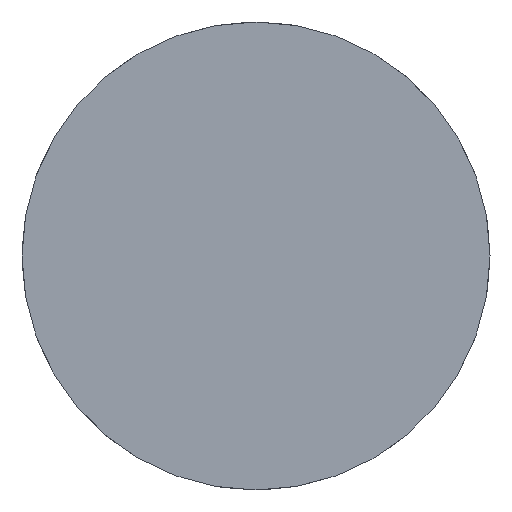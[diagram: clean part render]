
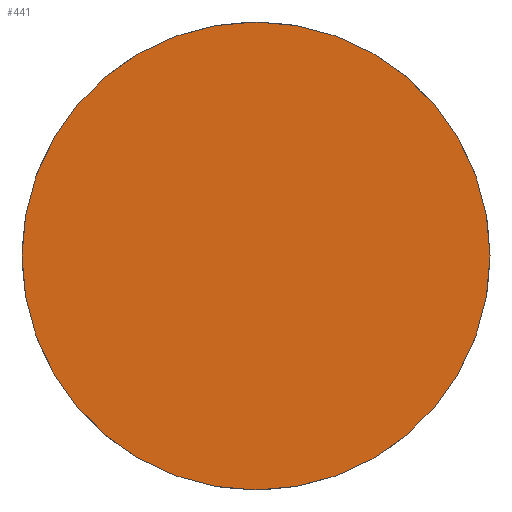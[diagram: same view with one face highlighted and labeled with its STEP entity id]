
A CAD part, front view. The second image highlights one B-rep face of the part: STEP entity #441.
In plain terms, the highlighted planar face has unit normal (0, -1, 0).
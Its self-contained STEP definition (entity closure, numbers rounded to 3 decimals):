
#27 = VERTEX_POINT ( 'NONE', #408 ) ;
#180 = DIRECTION ( 'NONE',  ( 0., 1., 0. ) ) ;
#203 = AXIS2_PLACEMENT_3D ( 'NONE', #1309, #180, #766 ) ;
#261 = PLANE ( 'NONE',  #203 ) ;
#408 = CARTESIAN_POINT ( 'NONE',  ( 25.03, -8.824, 69.8 ) ) ;
#441 = ADVANCED_FACE ( 'NONE', ( #1173 ), #261, .F. ) ;
#464 = EDGE_CURVE ( 'NONE', #27, #27, #1263, .T. ) ;
#657 = ORIENTED_EDGE ( 'NONE', *, *, #464, .F. ) ;
#665 = DIRECTION ( 'NONE',  ( 0., 1., 0. ) ) ;
#754 = CARTESIAN_POINT ( 'NONE',  ( -9.87, -8.824, 69.8 ) ) ;
#766 = DIRECTION ( 'NONE',  ( -1., 0., 0. ) ) ;
#793 = EDGE_LOOP ( 'NONE', ( #657 ) ) ;
#940 = AXIS2_PLACEMENT_3D ( 'NONE', #754, #665, #1082 ) ;
#1082 = DIRECTION ( 'NONE',  ( 1., 0., 0. ) ) ;
#1173 = FACE_OUTER_BOUND ( 'NONE', #793, .T. ) ;
#1263 = CIRCLE ( 'NONE', #940, 34.9 ) ;
#1309 = CARTESIAN_POINT ( 'NONE',  ( -9.87, -8.824, 69.8 ) ) ;
